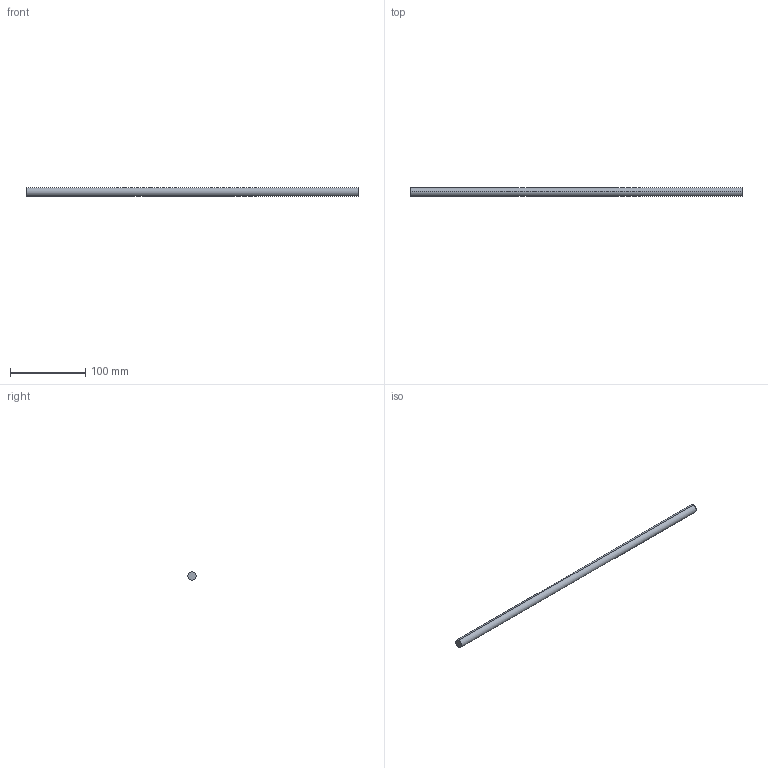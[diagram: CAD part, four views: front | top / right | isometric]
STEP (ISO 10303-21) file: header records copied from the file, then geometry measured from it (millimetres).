
FILE_DESCRIPTION (( 'STEP AP214' ), '1' );
FILE_NAME ('Querreling_Frontblende_Innenlade_KS-16_25mm-Halter_KAB-550.step', '2010-09-22T15:05:39', ( 'grass' ), ( '' ), 'SwSTEP 2.0', 'SolidWorks 2010', '' );
FILE_SCHEMA (( 'AUTOMOTIVE_DESIGN' ));
Length unit declared in the file: millimetre
Products named in the file (1): Querreling_Frontblende_Innenlade_KS-16_25mm-Halter_KAB-550
Bounding box: 440 x 11 x 11 mm (x, y, z)
Volume: 41814.6 mm3; surface area: 15395.4 mm2
Topology: 1 solids, 1 shells, 4 faces, 6 edges, 4 vertices
Faces by surface type: cylinder 2, plane 2
Entity records: 128 total; most frequent: DIRECTION 20, CARTESIAN_POINT 15, ORIENTED_EDGE 12, AXIS2_PLACEMENT_3D 9, EDGE_CURVE 6, FACE_OUTER_BOUND 4, EDGE_LOOP 4, CIRCLE 4
